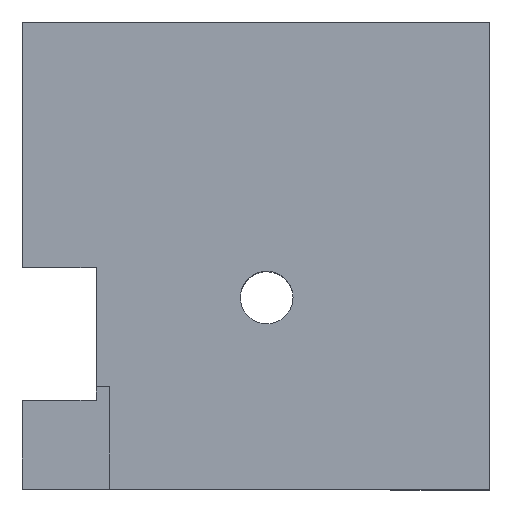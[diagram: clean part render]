
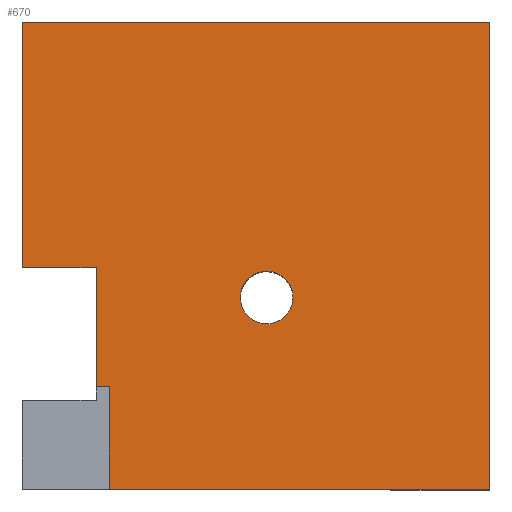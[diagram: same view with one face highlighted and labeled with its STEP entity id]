
A CAD part, top view. The second image highlights one B-rep face of the part: STEP entity #670.
In plain terms, the highlighted planar face has unit normal (0, 0, 1).
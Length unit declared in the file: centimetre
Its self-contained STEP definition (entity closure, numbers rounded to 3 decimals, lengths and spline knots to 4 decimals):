
#12 = VERTEX_POINT ( 'NONE', #54 ) ;
#23 = ORIENTED_EDGE ( 'NONE', *, *, #556, .F. ) ;
#45 = CARTESIAN_POINT ( 'NONE',  ( 1000., 1000., 1000. ) ) ;
#54 = CARTESIAN_POINT ( 'NONE',  ( 186.3971, 219.4531, 1000. ) ) ;
#62 = CARTESIAN_POINT ( 'NONE',  ( 0., 475.5595, 1000. ) ) ;
#83 = VECTOR ( 'NONE', #476, 100. ) ;
#106 = VERTEX_POINT ( 'NONE', #305 ) ;
#107 = VECTOR ( 'NONE', #331, 100. ) ;
#109 = CARTESIAN_POINT ( 'NONE',  ( 186.3971, 0., 1000. ) ) ;
#115 = VECTOR ( 'NONE', #264, 100. ) ;
#124 = LINE ( 'NONE', #136, #605 ) ;
#134 = EDGE_CURVE ( 'NONE', #106, #175, #716, .T. ) ;
#135 = CARTESIAN_POINT ( 'NONE',  ( 186.3971, 0., 1000. ) ) ;
#136 = CARTESIAN_POINT ( 'NONE',  ( 0., 1000., 1000. ) ) ;
#152 = VERTEX_POINT ( 'NONE', #762 ) ;
#175 = VERTEX_POINT ( 'NONE', #383 ) ;
#180 = ORIENTED_EDGE ( 'NONE', *, *, #569, .T. ) ;
#186 = ORIENTED_EDGE ( 'NONE', *, *, #259, .F. ) ;
#198 = EDGE_CURVE ( 'NONE', #672, #280, #203, .T. ) ;
#203 = LINE ( 'NONE', #258, #430 ) ;
#224 = CIRCLE ( 'NONE', #807, 56.4191 ) ;
#226 = CARTESIAN_POINT ( 'NONE',  ( 0., 475.5595, 1000. ) ) ;
#227 = DIRECTION ( 'NONE',  ( 0., 0., -1. ) ) ;
#234 = VECTOR ( 'NONE', #387, 100. ) ;
#240 = EDGE_CURVE ( 'NONE', #152, #805, #124, .T. ) ;
#247 = DIRECTION ( 'NONE',  ( 0., -1., 0. ) ) ;
#258 = CARTESIAN_POINT ( 'NONE',  ( 0., 0., 1000. ) ) ;
#259 = EDGE_CURVE ( 'NONE', #12, #809, #511, .T. ) ;
#260 = CARTESIAN_POINT ( 'NONE',  ( 157.8722, 190.4838, 1000. ) ) ;
#264 = DIRECTION ( 'NONE',  ( 0., 1., 0. ) ) ;
#280 = VERTEX_POINT ( 'NONE', #404 ) ;
#289 = AXIS2_PLACEMENT_3D ( 'NONE', #764, #634, #386 ) ;
#304 = CARTESIAN_POINT ( 'NONE',  ( 522.9002, 410.287, 1000. ) ) ;
#305 = CARTESIAN_POINT ( 'NONE',  ( 579.3193, 410.287, 1000. ) ) ;
#310 = ORIENTED_EDGE ( 'NONE', *, *, #737, .F. ) ;
#318 = DIRECTION ( 'NONE',  ( 0., 0., -1. ) ) ;
#329 = VECTOR ( 'NONE', #247, 100. ) ;
#331 = DIRECTION ( 'NONE',  ( 0., 1., 0. ) ) ;
#339 = ORIENTED_EDGE ( 'NONE', *, *, #633, .F. ) ;
#355 = AXIS2_PLACEMENT_3D ( 'NONE', #446, #318, #379 ) ;
#376 = EDGE_LOOP ( 'NONE', ( #547, #529 ) ) ;
#379 = DIRECTION ( 'NONE',  ( -1., 0., 0. ) ) ;
#383 = CARTESIAN_POINT ( 'NONE',  ( 466.481, 410.287, 1000. ) ) ;
#386 = DIRECTION ( 'NONE',  ( 1., 0., 0. ) ) ;
#387 = DIRECTION ( 'NONE',  ( -1., 0., 0. ) ) ;
#394 = LINE ( 'NONE', #260, #107 ) ;
#403 = CARTESIAN_POINT ( 'NONE',  ( 0., 1000., 1000. ) ) ;
#404 = CARTESIAN_POINT ( 'NONE',  ( 1000., 0., 1000. ) ) ;
#414 = VERTEX_POINT ( 'NONE', #226 ) ;
#430 = VECTOR ( 'NONE', #709, 100. ) ;
#446 = CARTESIAN_POINT ( 'NONE',  ( 522.9002, 410.287, 1000. ) ) ;
#449 = CARTESIAN_POINT ( 'NONE',  ( 186.3971, 219.4531, 1000. ) ) ;
#451 = FACE_BOUND ( 'NONE', #376, .T. ) ;
#464 = VERTEX_POINT ( 'NONE', #530 ) ;
#476 = DIRECTION ( 'NONE',  ( 0., 1., 0. ) ) ;
#481 = EDGE_CURVE ( 'NONE', #280, #152, #673, .T. ) ;
#511 = LINE ( 'NONE', #449, #234 ) ;
#529 = ORIENTED_EDGE ( 'NONE', *, *, #134, .T. ) ;
#530 = CARTESIAN_POINT ( 'NONE',  ( 157.8722, 475.5595, 1000. ) ) ;
#532 = EDGE_CURVE ( 'NONE', #175, #106, #224, .T. ) ;
#542 = LINE ( 'NONE', #798, #329 ) ;
#547 = ORIENTED_EDGE ( 'NONE', *, *, #532, .T. ) ;
#556 = EDGE_CURVE ( 'NONE', #464, #414, #623, .T. ) ;
#565 = ORIENTED_EDGE ( 'NONE', *, *, #481, .T. ) ;
#567 = DIRECTION ( 'NONE',  ( -1., 0., 0. ) ) ;
#569 = EDGE_CURVE ( 'NONE', #805, #414, #542, .T. ) ;
#596 = EDGE_LOOP ( 'NONE', ( #186, #339, #742, #565, #665, #180, #23, #310 ) ) ;
#605 = VECTOR ( 'NONE', #567, 100. ) ;
#611 = DIRECTION ( 'NONE',  ( -1., 0., 0. ) ) ;
#623 = LINE ( 'NONE', #62, #689 ) ;
#633 = EDGE_CURVE ( 'NONE', #672, #12, #793, .T. ) ;
#634 = DIRECTION ( 'NONE',  ( 0., 0., 1. ) ) ;
#663 = CARTESIAN_POINT ( 'NONE',  ( 157.8722, 219.4531, 1000. ) ) ;
#665 = ORIENTED_EDGE ( 'NONE', *, *, #240, .T. ) ;
#670 = ADVANCED_FACE ( 'NONE', ( #708, #451 ), #706, .T. ) ;
#672 = VERTEX_POINT ( 'NONE', #135 ) ;
#673 = LINE ( 'NONE', #45, #115 ) ;
#689 = VECTOR ( 'NONE', #611, 100. ) ;
#692 = DIRECTION ( 'NONE',  ( -1., 0., 0. ) ) ;
#706 = PLANE ( 'NONE',  #289 ) ;
#708 = FACE_OUTER_BOUND ( 'NONE', #596, .T. ) ;
#709 = DIRECTION ( 'NONE',  ( 1., 0., 0. ) ) ;
#716 = CIRCLE ( 'NONE', #355, 56.4191 ) ;
#737 = EDGE_CURVE ( 'NONE', #809, #464, #394, .T. ) ;
#742 = ORIENTED_EDGE ( 'NONE', *, *, #198, .T. ) ;
#762 = CARTESIAN_POINT ( 'NONE',  ( 1000., 1000., 1000. ) ) ;
#764 = CARTESIAN_POINT ( 'NONE',  ( 0., 0., 1000. ) ) ;
#793 = LINE ( 'NONE', #109, #83 ) ;
#798 = CARTESIAN_POINT ( 'NONE',  ( 0., 1000., 1000. ) ) ;
#805 = VERTEX_POINT ( 'NONE', #403 ) ;
#807 = AXIS2_PLACEMENT_3D ( 'NONE', #304, #227, #692 ) ;
#809 = VERTEX_POINT ( 'NONE', #663 ) ;
